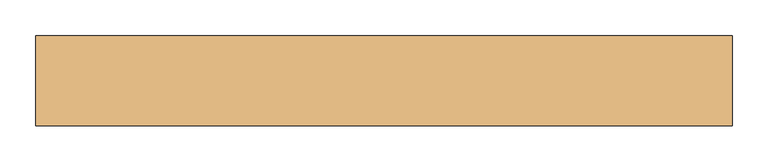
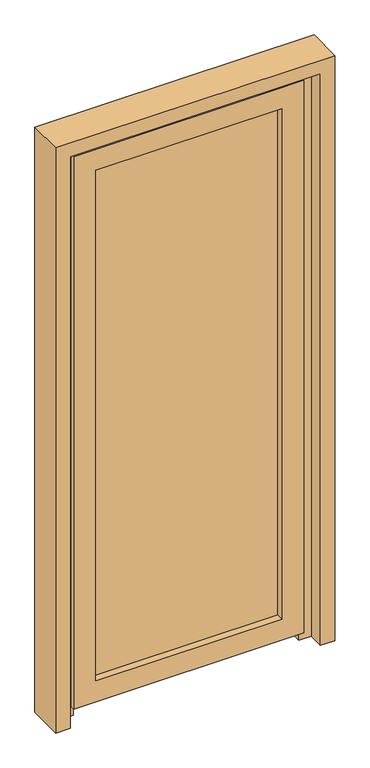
"""IFC4 building model written with IfcOpenShell, lengths in millimetres: door geometry, Внутренняя дверь 1-Навесная - 30970-2002 : ДПВ Г Б Л 2100-870 ГОСТ 30970-2002."""

from ifc_helpers import new_model, si_unit, frame, origin, place, context, project, spatial, polyline, outline, extrude, faceted_brep, source, transform, mapped, element, save


def door_ad1fb5ee(model_context):
    return source(origin(), model_context, "Body", "SolidModel", [
        extrude(outline(polyline([(-338.0, 35.5), (338.0, 35.5), (338.0, 11.5), (-338.0, 11.5), (-338.0, 35.5)])), frame((0.0, 0.0, 97.0), z_axis=(0.0, 0.0, 1.0), x_axis=(1.0, 0.0, 0.0)), (0.0, 0.0, 1.0), 1906.0),
        faceted_brep([(-323.0, 11.5, 1988.0), (-323.0, -14.5, 1988.0), (-323.0, -14.5, 112.0), (-323.0, 11.5, 112.0), (-338.0, 35.5, 2003.0), (-338.0, 11.5, 2003.0), (-338.0, 11.5, 97.0), (-338.0, 35.5, 97.0), (-323.0, 55.5, 1988.0), (-323.0, 35.5, 1988.0), (-323.0, 35.5, 112.0), (-323.0, 55.5, 112.0), (-380.0, -0.5, 2045.0), (-380.0, 55.5, 2045.0), (-380.0, 55.5, 55.0), (-380.0, -0.5, 55.0), (-400.0, -14.5, 2065.0), (-400.0, -0.5, 2065.0), (-400.0, -0.5, 35.0), (-400.0, -14.5, 35.0), (323.0, -14.5, 112.0), (323.0, 11.5, 112.0), (338.0, 11.5, 97.0), (338.0, 35.5, 97.0), (323.0, 35.5, 112.0), (323.0, 55.5, 112.0), (380.0, 55.5, 55.0), (380.0, -0.5, 55.0), (400.0, -0.5, 35.0), (400.0, -14.5, 35.0), (323.0, -14.5, 1988.0), (323.0, 11.5, 1988.0), (338.0, 11.5, 2003.0), (338.0, 35.5, 2003.0), (323.0, 35.5, 1988.0), (323.0, 55.5, 1988.0), (380.0, 55.5, 2045.0), (380.0, -0.5, 2045.0), (400.0, -0.5, 2065.0), (400.0, -14.5, 2065.0)], [[[0, 1, 2, 3]], [[4, 5, 6, 7]], [[8, 9, 10, 11]], [[12, 13, 14, 15]], [[16, 17, 18, 19]], [[3, 2, 20, 21]], [[7, 6, 22, 23]], [[11, 10, 24, 25]], [[15, 14, 26, 27]], [[19, 18, 28, 29]], [[21, 20, 30, 31]], [[23, 22, 32, 33]], [[25, 24, 34, 35]], [[27, 26, 36, 37]], [[29, 28, 38, 39]], [[31, 30, 1, 0]], [[5, 32, 22, 6], [3, 21, 31, 0]], [[33, 32, 5, 4]], [[7, 23, 33, 4], [9, 34, 24, 10]], [[35, 34, 9, 8]], [[13, 36, 26, 14], [11, 25, 35, 8]], [[37, 36, 13, 12]], [[17, 38, 28, 18], [15, 27, 37, 12]], [[39, 38, 17, 16]], [[19, 29, 39, 16], [1, 30, 20, 2]]]),
        faceted_brep([(372.0, 71.5, 0.0), (435.0, 71.5, 0.0), (435.0, 1.5, 0.0), (392.0, 1.5, 0.0), (392.0, 57.5, 0.0), (372.0, 57.5, 0.0), (372.0, 71.5, 2037.0), (-372.0, 71.5, 2037.0), (-372.0, 71.5, 0.0), (-435.0, 71.5, 0.0), (-435.0, 71.5, 2100.0), (435.0, 71.5, 2100.0), (435.0, 1.5, 2100.0), (-435.0, 1.5, 2100.0), (-435.0, 1.5, 0.0), (-392.0, 1.5, 0.0), (-392.0, 1.5, 2057.0), (392.0, 1.5, 2057.0), (392.0, 57.5, 2057.0), (-392.0, 57.5, 2057.0), (-392.0, 57.5, 0.0), (-372.0, 57.5, 0.0), (-372.0, 57.5, 2037.0), (372.0, 57.5, 2037.0)], [[[0, 1, 2, 3, 4, 5]], [[1, 0, 6, 7, 8, 9, 10, 11]], [[2, 1, 11, 12]], [[3, 2, 12, 13, 14, 15, 16, 17]], [[4, 3, 17, 18]], [[5, 4, 18, 19, 20, 21, 22, 23]], [[0, 5, 23, 6]], [[7, 22, 21, 8]], [[8, 21, 20, 15, 14, 9]], [[13, 10, 9, 14]], [[19, 16, 15, 20]], [[12, 11, 10, 13]], [[18, 17, 16, 19]], [[6, 23, 22, 7]]]),
        extrude(outline(polyline([(0.0, 435.0), (0.0, 485.0), (2150.0, 485.0), (2150.0, -485.0), (0.0, -485.0), (0.0, -435.0), (2100.0, -435.0), (2100.0, 435.0), (0.0, 435.0)])), frame((0.0, -53.5, 0.0), z_axis=(0.0, 1.0, 0.0), x_axis=(0.0, 0.0, 1.0)), (0.0, 0.0, 1.0), 125.0),
    ])


if __name__ == "__main__":
    model = new_model("IFC4")
    model_context = context("Model", 3, world=origin())
    ifc_project = project(units=[si_unit("LENGTHUNIT", "METRE", prefix="MILLI")], contexts=[model_context])
    site = spatial("IfcSite", under=ifc_project)
    building = spatial("IfcBuilding", under=site)
    placement = place(None, origin())
    door_shape = door_ad1fb5ee(model_context)
    element("IfcDoor", 1, ObjectType="Внутренняя дверь 1-Навесная - 30970-2002 : ДПВ Г Б Л 2100-870 ГОСТ 30970-2002", at=placement, inside=building, context=model_context, shape_type="MappedRepresentation", body=[
        mapped(door_shape, transform((0.0, 0.0, 0.0), x_axis=(1.0, 0.0, 0.0), y_axis=(0.0, 1.0, 0.0), z_axis=(0.0, 0.0, 1.0))),
    ])
    save(model, "model.ifc")
